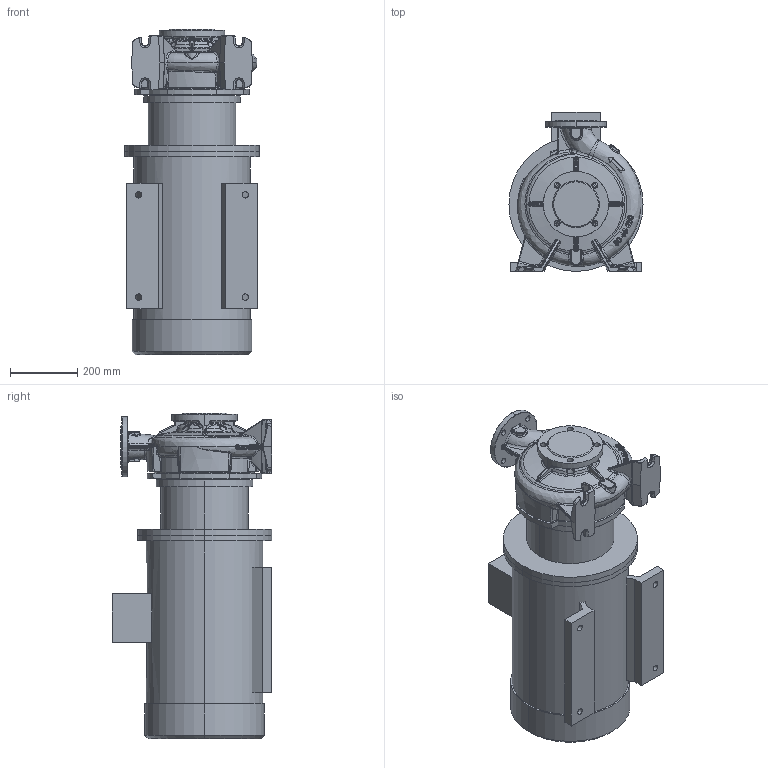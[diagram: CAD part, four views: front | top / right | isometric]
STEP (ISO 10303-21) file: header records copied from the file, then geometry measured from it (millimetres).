
FILE_DESCRIPTION (( 'STEP AP203' ), '1' );
FILE_NAME ('KRM 80-65-250-2-30.STEP', '2026-05-06T13:36:42', ( '' ), ( '' ), 'SwSTEP 2.0', 'SolidWorks 2016', '' );
FILE_SCHEMA (( 'CONFIG_CONTROL_DESIGN' ));
Length unit declared in the file: millimetre
Products named in the file (1): KRM 80-65-250-2-30
Bounding box: 400 x 475 x 970.8 mm (x, y, z)
Volume: 89426341.4 mm3; surface area: 2472265.6 mm2
Topology: 8 solids, 8 shells, 1125 faces, 2712 edges, 1615 vertices
Faces by surface type: bspline 507, cylinder 225, plane 214, torus 75, cone 67, sphere 37
Entity records: 93735 total; most frequent: CARTESIAN_POINT 71441, ORIENTED_EDGE 5374, DIRECTION 3647, EDGE_CURVE 2687, VERTEX_POINT 1615, AXIS2_PLACEMENT_3D 1512, EDGE_LOOP 1186, ADVANCED_FACE 1125
